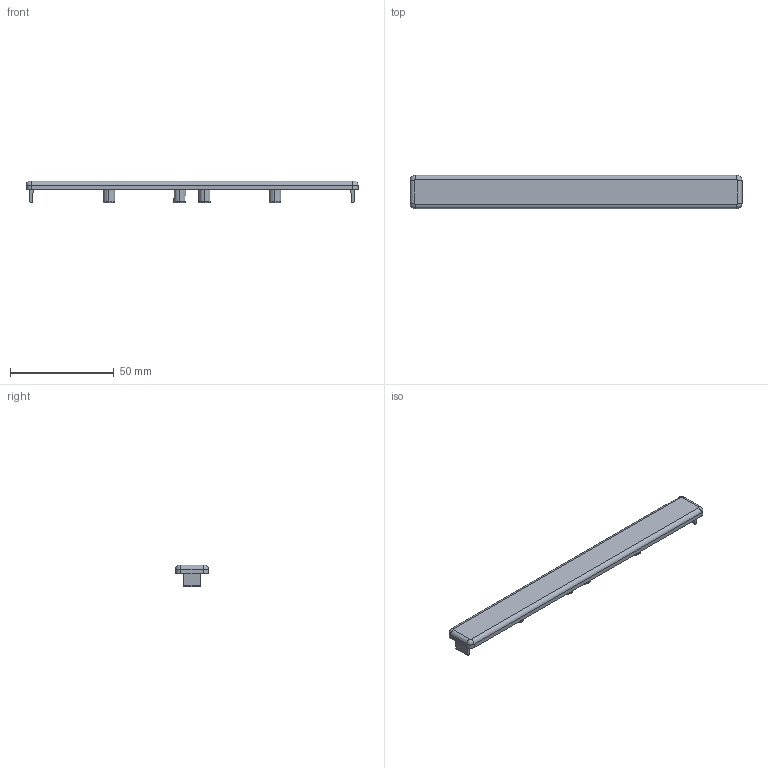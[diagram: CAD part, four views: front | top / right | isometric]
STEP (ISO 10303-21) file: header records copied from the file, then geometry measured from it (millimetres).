
FILE_DESCRIPTION (( 'STEP AP203' ), '1' );
FILE_NAME ('0108AK16016.STEP', '2024-03-07T10:07:10', ( 'Windows-Benutzer' ), ( '' ), 'SwSTEP 2.0', 'SolidWorks 2023', '' );
FILE_SCHEMA (( 'CONFIG_CONTROL_DESIGN' ));
Length unit declared in the file: millimetre
Products named in the file (1): 0108AK16016
Bounding box: 160 x 16 x 10.5 mm (x, y, z)
Volume: 7039.8 mm3; surface area: 8047.8 mm2
Topology: 1 solids, 1 shells, 71 faces, 164 edges, 104 vertices
Faces by surface type: plane 27, cone 16, cylinder 16, bspline 8, torus 4
Entity records: 2191 total; most frequent: CARTESIAN_POINT 484, DIRECTION 360, ORIENTED_EDGE 328, EDGE_CURVE 164, AXIS2_PLACEMENT_3D 140, VERTEX_POINT 104, VECTOR 80, EDGE_LOOP 80
